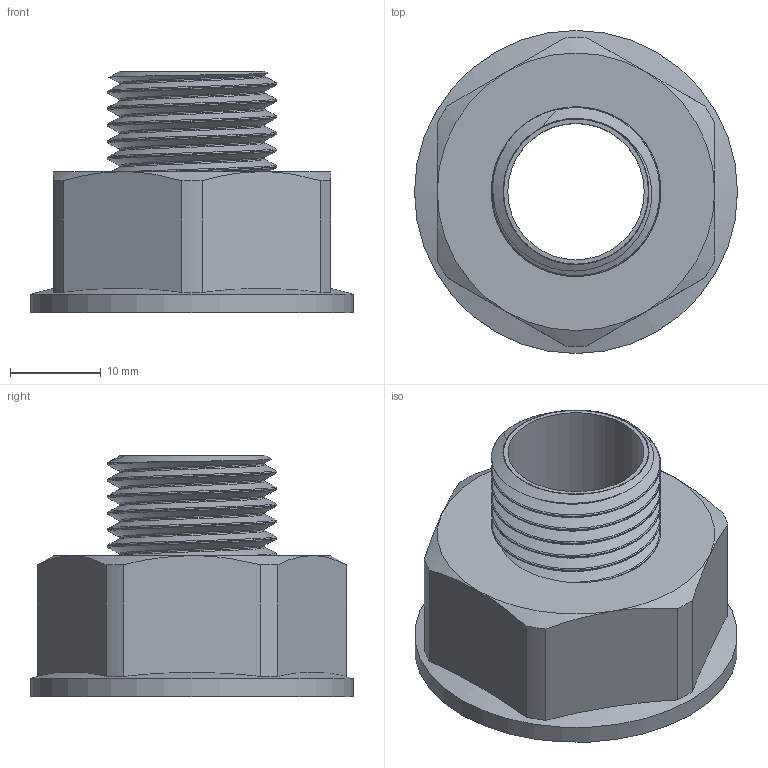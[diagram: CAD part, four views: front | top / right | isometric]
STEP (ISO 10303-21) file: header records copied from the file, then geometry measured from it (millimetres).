
FILE_DESCRIPTION(/* description */ (''),/* implementation_level */ '2;1');
FILE_NAME(/* name */ 'C:\Users\Doom\Desktop\Фадотех\Резьба\P04 18.03.2020\P04 18.03.2020.stp',/* time_stamp */ '2022-01-12T00:28:02+02:00',/* author */ ('Doom'),/* organization */ (''),/* preprocessor_version */ 'ST-DEVELOPER v18',/* originating_system */ 'Autodesk Inventor 2020',/* authorisation */ '');
FILE_SCHEMA (('AUTOMOTIVE_DESIGN { 1 0 10303 214 3 1 1 }'));
Length unit declared in the file: millimetre
Products named in the file (1): P04 18.03.2020
Bounding box: 35.5 x 35.5 x 26.5 mm (x, y, z)
Volume: 7633.2 mm3; surface area: 10455.8 mm2
Topology: 3 solids, 3 shells, 64 faces, 179 edges, 121 vertices
Faces by surface type: cylinder 29, plane 14, bspline 12, cone 9
Full cylindrical faces by diameter (mm): 15 x1, 15.94 x2, 18.63 x5, 23.75 x8, 26.44 x2, 35.5 x1
Entity records: 9555 total; most frequent: CARTESIAN_POINT 8063, ORIENTED_EDGE 350, DIRECTION 238, EDGE_CURVE 175, VERTEX_POINT 119, AXIS2_PLACEMENT_3D 102, EDGE_LOOP 72, B_SPLINE_CURVE_WITH_KNOTS 68
